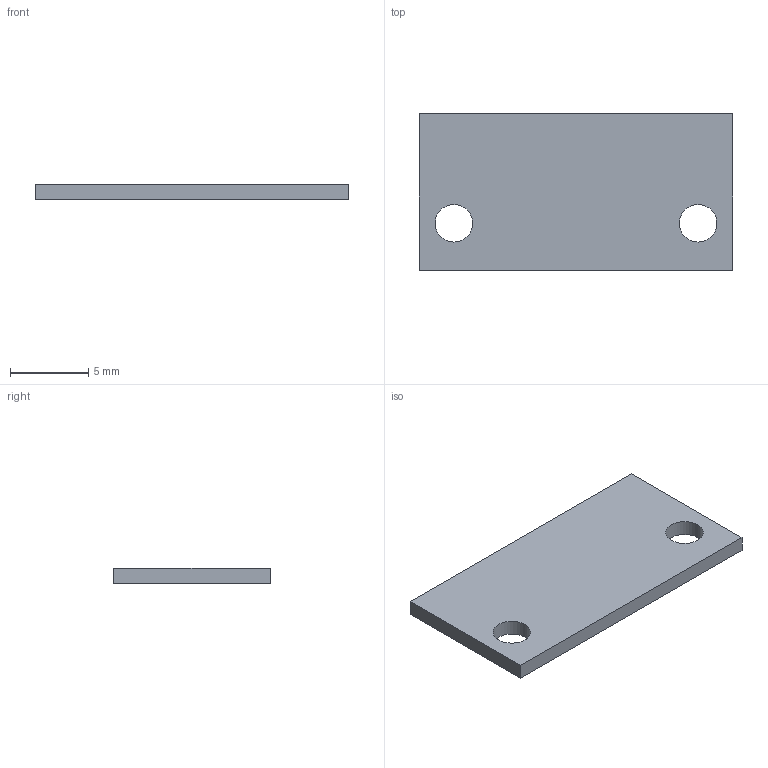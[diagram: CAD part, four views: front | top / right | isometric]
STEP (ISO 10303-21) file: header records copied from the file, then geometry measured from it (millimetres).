
FILE_DESCRIPTION(('Open CASCADE Model'),'2;1');
FILE_NAME('Open CASCADE Shape Model','2026-10-17T01:37:17',('Author'),( 'Open CASCADE'),'Open CASCADE STEP processor 7.9','Open CASCADE 7.9' ,'Unknown');
FILE_SCHEMA(('AUTOMOTIVE_DESIGN { 1 0 10303 214 1 1 1 1 }'));
Length unit declared in the file: millimetre
Products named in the file (1): Open CASCADE STEP translator 7.9 3
Bounding box: 20 x 10 x 1 mm (x, y, z)
Volume: 191 mm3; surface area: 457 mm2
Topology: 1 solids, 1 shells, 8 faces, 18 edges, 12 vertices
Faces by surface type: plane 6, cylinder 2
Full cylindrical faces by diameter (mm): 2.4 x2
Entity records: 478 total; most frequent: DIRECTION 76, CARTESIAN_POINT 75, LINE 46, VECTOR 46, ORIENTED_EDGE 36, PCURVE 36, DEFINITIONAL_REPRESENTATION 36, EDGE_CURVE 18
